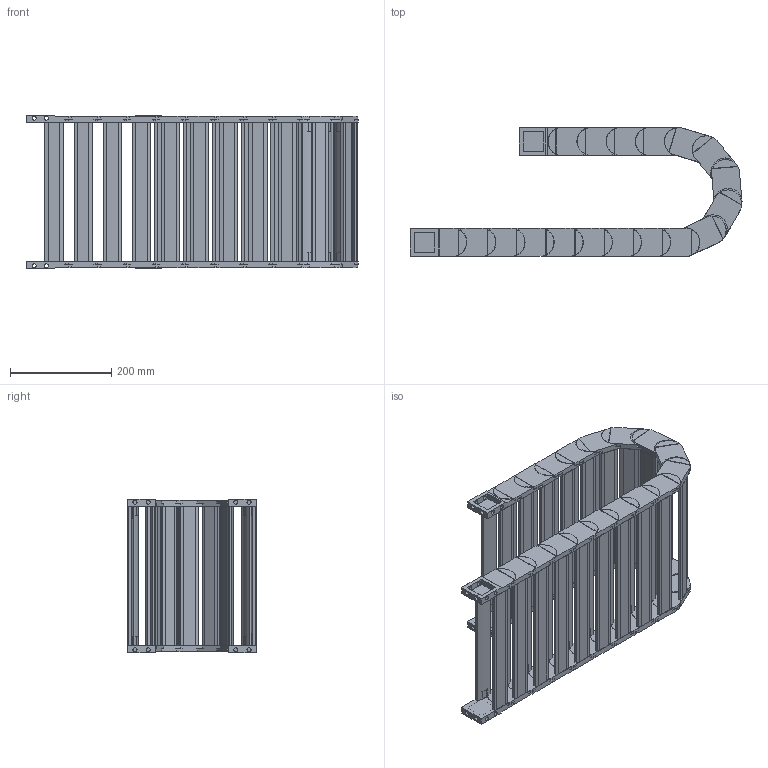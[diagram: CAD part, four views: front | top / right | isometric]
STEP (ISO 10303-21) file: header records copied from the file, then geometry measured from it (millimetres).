
FILE_DESCRIPTION((''),'2;1');
FILE_NAME('HD35-R100-ZPT_ASM','2022-06-17T15:27:37',('admin'),(''),'CREO PARAMETRIC BY PTC INC, 2021164','CREO PARAMETRIC BY PTC INC, 2021164','');
FILE_SCHEMA(('CONFIG_CONTROL_DESIGN','GEOMETRIC_VALIDATION_PROPERTIES_MIM'));
Length unit declared in the file: millimetre
Products named in the file (6): HD35; 35-600001; HD35_ASM; 35-TL_11; 35-WL; HD35-R100-ZPT_ASM
Assembly tree (23 placements, depth 3):
  HD35-R100-ZPT_ASM
    HD35_ASM  x17
      HD35
      35-600001
    35-TL_11
    35-WL
    35-600001  x2
Bounding box: 655.07 x 253.99 x 303.5 mm (x, y, z)
Volume: 4624001.1 mm3; surface area: 1504755.9 mm2
Topology: 76 solids, 76 shells, 1426 faces, 3794 edges, 2600 vertices
Faces by surface type: plane 968, cylinder 458
Entity records: 9395 total; most frequent: DIRECTION 1420, CARTESIAN_POINT 1410, ORIENTED_EDGE 1300, EDGE_CURVE 650, AXIS2_PLACEMENT_3D 505, VERTEX_POINT 440, VECTOR 410, LINE 410
